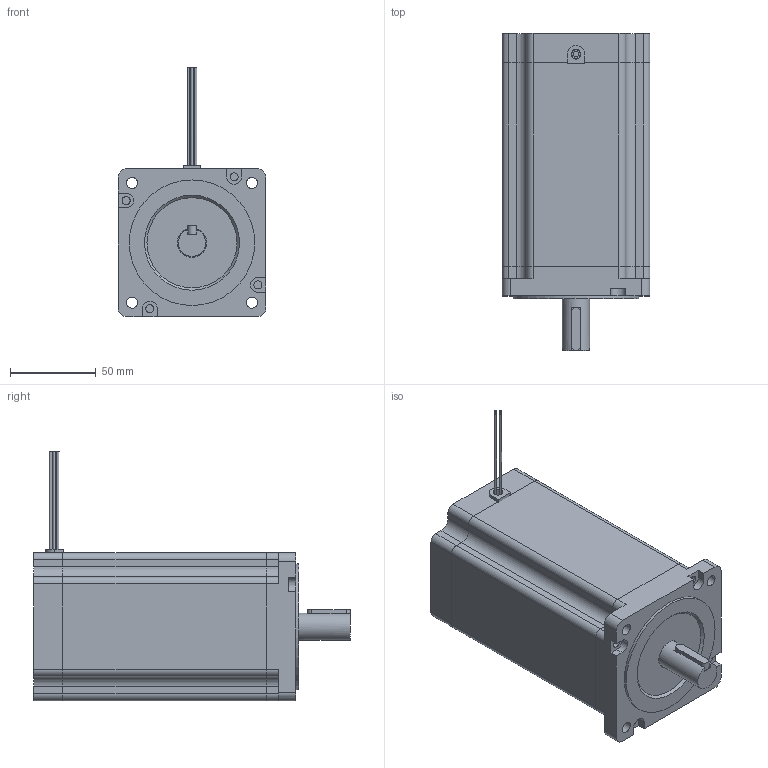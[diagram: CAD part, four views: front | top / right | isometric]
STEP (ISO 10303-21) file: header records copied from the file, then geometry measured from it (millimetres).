
FILE_DESCRIPTION(/* description */ (''),/* implementation_level */ '2;1');
FILE_NAME(/* name */ '86HS155-6308-02J.stp',/* time_stamp */ '2021-03-08T09:19:27+08:00',/* author */ (''),/* organization */ (''),/* preprocessor_version */ 'ST-DEVELOPER v15',/* originating_system */ 'SIEMENS PLM Software NX 10.0',/* authorisation */ '');
FILE_SCHEMA (('CONFIG_CONTROL_DESIGN'));
Length unit declared in the file: millimetre
Products named in the file (6): 螺钉; 086.001BB; 001f-1; 118.5Hdingz; 31.75-15.875-25J键槽; 86HS155-6308-02J
Assembly tree (8 placements, depth 2):
  86HS155-6308-02J
    31.75-15.875-25J键槽
    118.5Hdingz
    001f-1
    086.001BB
    螺钉  x4
Bounding box: 86 x 184.25 x 145 mm (x, y, z)
Volume: 981538.5 mm3; surface area: 105175.3 mm2
Topology: 9 solids, 9 shells, 247 faces, 684 edges, 459 vertices
Faces by surface type: plane 164, cylinder 78, bspline 4, cone 1
Full cylindrical faces by diameter (mm): 1.5 x4, 4 x4, 4.7 x4, 6 x4, 6.5 x4, 15.875 x1, 17 x2, 25 x1, 52 x1, 73 x1
Entity records: 6868 total; most frequent: CARTESIAN_POINT 1324, DIRECTION 1017, ORIENTED_EDGE 962, EDGE_CURVE 481, AXIS2_PLACEMENT_3D 357, VERTEX_POINT 336, LINE 303, VECTOR 303
